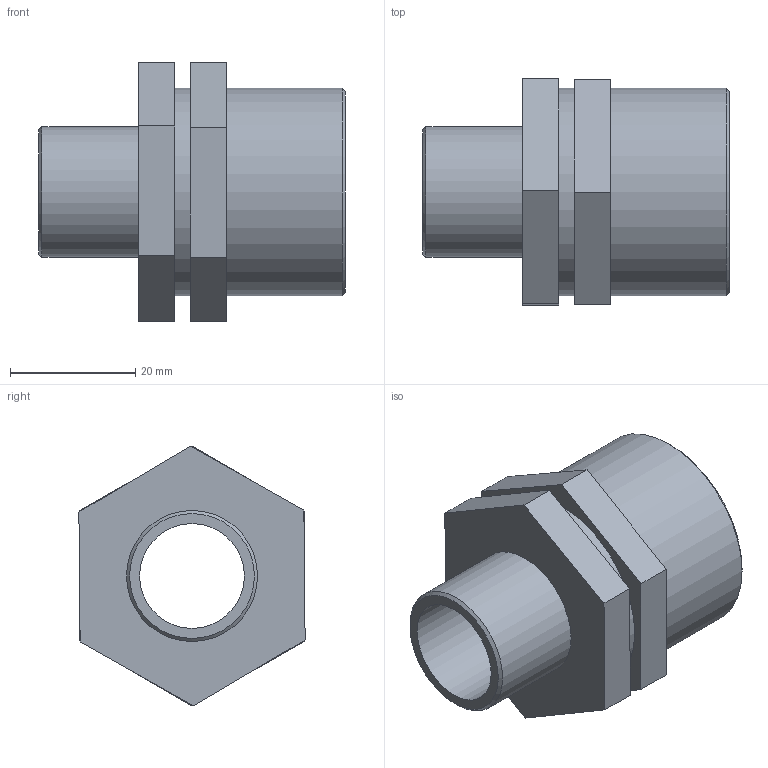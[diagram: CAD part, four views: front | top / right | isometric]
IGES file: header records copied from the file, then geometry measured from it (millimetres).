
Global section: file name: 050605010005_0506050100050A.ipt; native system: Autodesk Inventor 2015; preprocessor: unknown; author: KIM; date: 20170618.093224; units: millimetre
Bounding box: 49 x 36.19 x 41.57 mm (x, y, z)
Volume: 17150.6 mm3; surface area: 10418.1 mm2
Topology: 1 solids, 1 shells, 26 faces, 59 edges, 40 vertices
Faces by surface type: plane 19, cylinder 3, cone 2, revolution 2
Full cylindrical faces by diameter (mm): 20.955 x1, 33.249 x2
